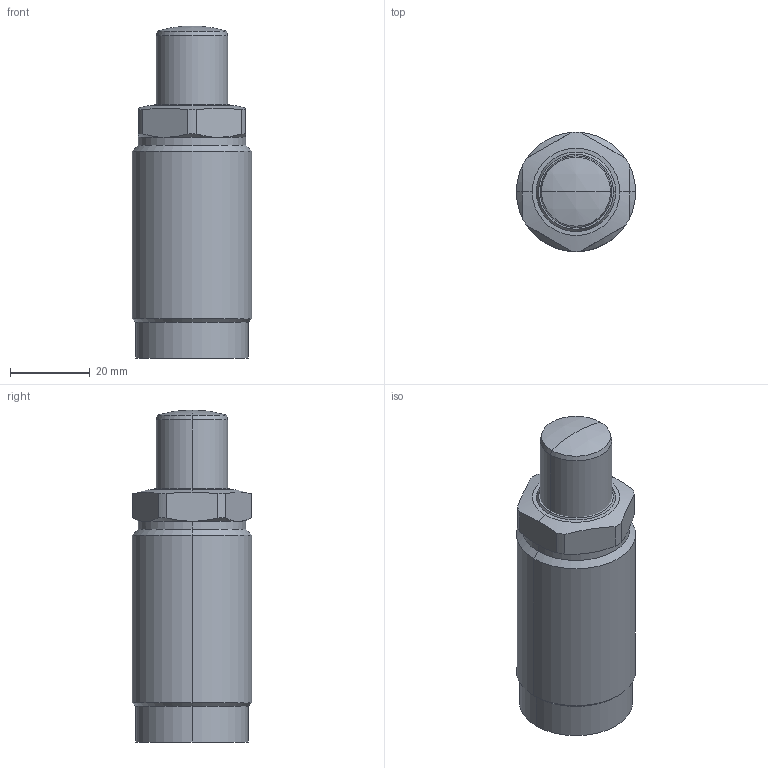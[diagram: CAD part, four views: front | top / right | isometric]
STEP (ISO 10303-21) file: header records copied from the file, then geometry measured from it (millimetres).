
FILE_DESCRIPTION (( 'STEP AP203' ), '1' );
FILE_NAME ('650301-RL.step', '2016-11-02T03:14:12', ( 'wxp' ), ( '' ), 'SwSTEP 2.0', 'SolidWorks 2011', '' );
FILE_SCHEMA (( 'CONFIG_CONTROL_DESIGN' ));
Length unit declared in the file: millimetre
Products named in the file (3): 650301-RL; 葩璃 650301-RL.sldasm-Part-2^650301-RL; 葩璃 650301-RL.sldasm-Part-1^650301-RL
Assembly tree (2 placements, depth 2):
  650301-RL
    葩璃 650301-RL.sldasm-Part-2^650301-RL
    葩璃 650301-RL.sldasm-Part-1^650301-RL
Bounding box: 30 x 30 x 83.5 mm (x, y, z)
Volume: 48259.6 mm3; surface area: 9271.1 mm2
Topology: 2 solids, 2 shells, 67 faces, 152 edges, 94 vertices
Faces by surface type: cylinder 26, cone 18, plane 15, torus 6, sphere 2
Entity records: 2247 total; most frequent: CARTESIAN_POINT 436, DIRECTION 344, ORIENTED_EDGE 300, EDGE_CURVE 150, AXIS2_PLACEMENT_3D 150, VERTEX_POINT 94, CIRCLE 78, EDGE_LOOP 74
